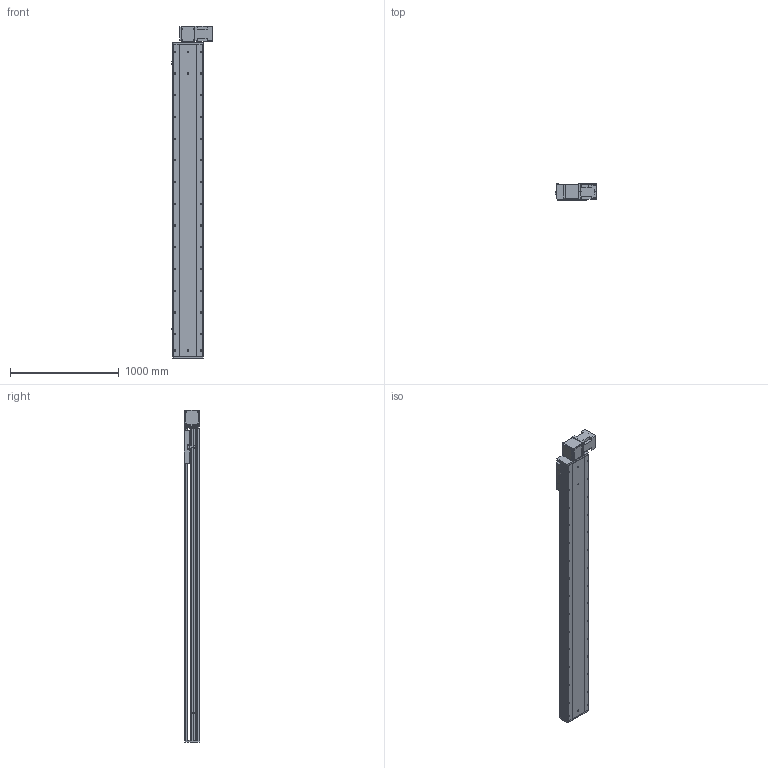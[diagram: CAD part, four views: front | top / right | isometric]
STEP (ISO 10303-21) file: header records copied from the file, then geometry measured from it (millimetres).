
FILE_DESCRIPTION (( 'STEP AP214' ), '1' );
FILE_NAME ('RTB28S-XX-2450-BL-M100-XX-C4.STEP', '2025-12-22T02:31:39', ( '' ), ( '' ), 'SwSTEP 2.0', 'SolidWorks 2018', '' );
FILE_SCHEMA (( 'AUTOMOTIVE_DESIGN' ));
Length unit declared in the file: millimetre
Products named in the file (4): RTB28S-GY-004^RTB28S-XX-XX-BL-M100-XX-C4; RTB28S-GY-008^RTB28S-XX-XX-BL-M100-XX-C4; RTB28S-GY-011^RTB28S-XX-XX-BL-M100-XX-C4; RTB28S-XX-2450-BL-M100-XX-C4
Assembly tree (3 placements, depth 2):
  RTB28S-XX-2450-BL-M100-XX-C4
    RTB28S-GY-011^RTB28S-XX-XX-BL-M100-XX-C4
    RTB28S-GY-004^RTB28S-XX-XX-BL-M100-XX-C4
    RTB28S-GY-008^RTB28S-XX-XX-BL-M100-XX-C4
Bounding box: 380.7 x 145 x 3057 mm (x, y, z)
Volume: 52450646.3 mm3; surface area: 4921599.7 mm2
Topology: 3 solids, 4 shells, 858 faces, 2298 edges, 1468 vertices
Faces by surface type: cylinder 415, plane 359, cone 80, torus 4
Entity records: 32915 total; most frequent: CARTESIAN_POINT 6052, DIRECTION 4884, ORIENTED_EDGE 4532, EDGE_CURVE 2266, AXIS2_PLACEMENT_3D 1792, VERTEX_POINT 1468, LINE 1300, VECTOR 1300
